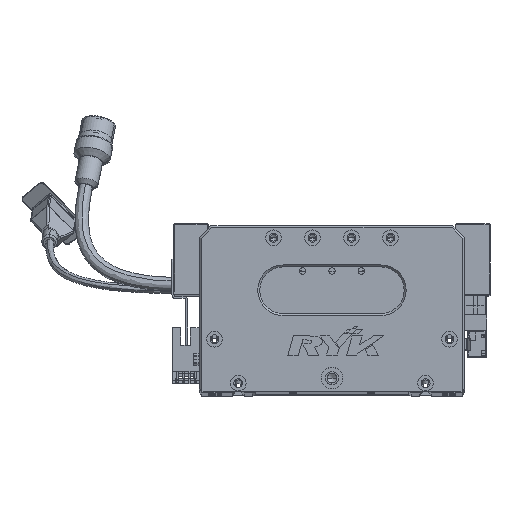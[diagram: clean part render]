
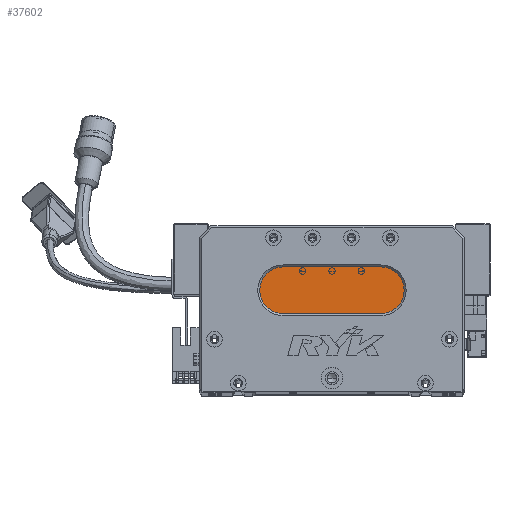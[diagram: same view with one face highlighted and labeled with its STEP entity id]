
A CAD part, top view. The second image highlights one B-rep face of the part: STEP entity #37602.
In plain terms, the highlighted planar face has unit normal (0, 0, 1) as drawn and (0, 0, -1) by its records, which use the part's own axes.
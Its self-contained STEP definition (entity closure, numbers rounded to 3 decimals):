
#843 = CARTESIAN_POINT ( 'NONE',  ( 43., 64., 13. ) ) ;
#7821 = VERTEX_POINT ( 'NONE', #843 ) ;
#9134 = DIRECTION ( 'NONE',  ( -1., 0., 0. ) ) ;
#16775 = CIRCLE ( 'NONE', #52922, 12. ) ;
#17255 = CARTESIAN_POINT ( 'NONE',  ( 93., 64., 13. ) ) ;
#18799 = DIRECTION ( 'NONE',  ( -1., 0., 0. ) ) ;
#19633 = EDGE_CURVE ( 'NONE', #7821, #31527, #59515, .T. ) ;
#22509 = CARTESIAN_POINT ( 'NONE',  ( 31., 52., 13. ) ) ;
#24173 = FACE_OUTER_BOUND ( 'NONE', #46625, .T. ) ;
#26154 = PLANE ( 'NONE',  #76500 ) ;
#29135 = DIRECTION ( 'NONE',  ( 0., 0., -1. ) ) ;
#30243 = LINE ( 'NONE', #67536, #80519 ) ;
#31527 = VERTEX_POINT ( 'NONE', #70185 ) ;
#36271 = CARTESIAN_POINT ( 'NONE',  ( 43., 40., 13. ) ) ;
#36584 = EDGE_CURVE ( 'NONE', #31527, #50867, #40774, .T. ) ;
#37557 = ORIENTED_EDGE ( 'NONE', *, *, #19633, .T. ) ;
#37602 = ADVANCED_FACE ( 'NONE', ( #24173 ), #26154, .T. ) ;
#37962 = EDGE_CURVE ( 'NONE', #50867, #53673, #30243, .T. ) ;
#38584 = AXIS2_PLACEMENT_3D ( 'NONE', #54100, #29135, #48347 ) ;
#39282 = ORIENTED_EDGE ( 'NONE', *, *, #36584, .T. ) ;
#40774 = CIRCLE ( 'NONE', #38584, 12. ) ;
#43305 = DIRECTION ( 'NONE',  ( 1., 0., 0. ) ) ;
#45042 = DIRECTION ( 'NONE',  ( -1., 0., 0. ) ) ;
#46625 = EDGE_LOOP ( 'NONE', ( #39282, #55881, #58910, #78287, #37557 ) ) ;
#48347 = DIRECTION ( 'NONE',  ( -1., 0., 0. ) ) ;
#49464 = VERTEX_POINT ( 'NONE', #22509 ) ;
#50309 = CARTESIAN_POINT ( 'NONE',  ( 43., 52., 13. ) ) ;
#50867 = VERTEX_POINT ( 'NONE', #78469 ) ;
#51183 = DIRECTION ( 'NONE',  ( 0., 0., -1. ) ) ;
#52922 = AXIS2_PLACEMENT_3D ( 'NONE', #83743, #57361, #45042 ) ;
#53673 = VERTEX_POINT ( 'NONE', #36271 ) ;
#54100 = CARTESIAN_POINT ( 'NONE',  ( 93., 52., 13. ) ) ;
#55881 = ORIENTED_EDGE ( 'NONE', *, *, #37962, .T. ) ;
#57361 = DIRECTION ( 'NONE',  ( 0., 0., -1. ) ) ;
#58452 = VECTOR ( 'NONE', #43305, 1000. ) ;
#58910 = ORIENTED_EDGE ( 'NONE', *, *, #70296, .T. ) ;
#59088 = DIRECTION ( 'NONE',  ( -1., 0., 0. ) ) ;
#59515 = LINE ( 'NONE', #17255, #58452 ) ;
#62575 = AXIS2_PLACEMENT_3D ( 'NONE', #50309, #51183, #18799 ) ;
#65046 = EDGE_CURVE ( 'NONE', #49464, #7821, #75882, .T. ) ;
#67536 = CARTESIAN_POINT ( 'NONE',  ( 93., 40., 13. ) ) ;
#70185 = CARTESIAN_POINT ( 'NONE',  ( 93., 64., 13. ) ) ;
#70296 = EDGE_CURVE ( 'NONE', #53673, #49464, #16775, .T. ) ;
#71965 = CARTESIAN_POINT ( 'NONE',  ( 93., 52., 13. ) ) ;
#72539 = DIRECTION ( 'NONE',  ( 0., 0., -1. ) ) ;
#75882 = CIRCLE ( 'NONE', #62575, 12. ) ;
#76500 = AXIS2_PLACEMENT_3D ( 'NONE', #71965, #72539, #59088 ) ;
#78287 = ORIENTED_EDGE ( 'NONE', *, *, #65046, .T. ) ;
#78469 = CARTESIAN_POINT ( 'NONE',  ( 93., 40., 13. ) ) ;
#80519 = VECTOR ( 'NONE', #9134, 1000. ) ;
#83743 = CARTESIAN_POINT ( 'NONE',  ( 43., 52., 13. ) ) ;
